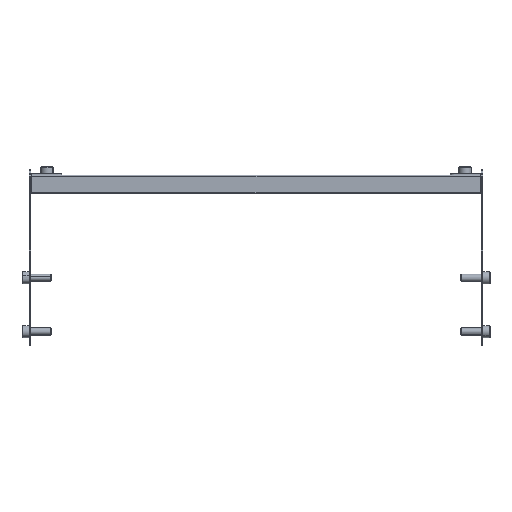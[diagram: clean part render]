
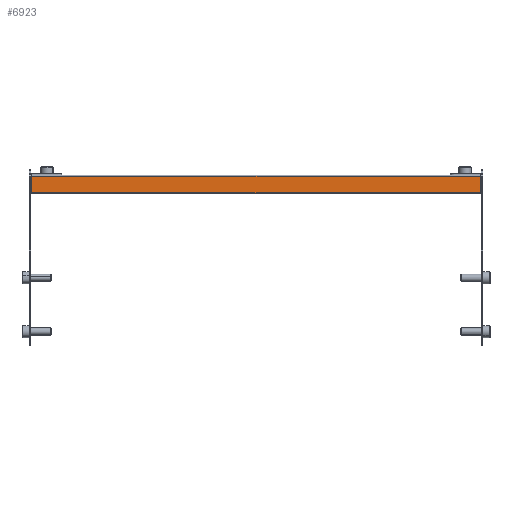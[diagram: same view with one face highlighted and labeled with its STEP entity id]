
A CAD part, front view. The second image highlights one B-rep face of the part: STEP entity #6923.
In plain terms, the highlighted planar face has unit normal (0, -1, 0) as drawn and (1, 0, 0) by its records, which use the part's own axes.
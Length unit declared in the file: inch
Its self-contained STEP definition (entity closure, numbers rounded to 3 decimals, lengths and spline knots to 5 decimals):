
#5304=DIRECTION('',(0.,-1.,0.));
#5305=VECTOR('',#5304,0.53055);
#5306=CARTESIAN_POINT('',(0.78127,0.26528,-7.30175));
#5307=LINE('',#5306,#5305);
#5926=DIRECTION('',(0.,0.,-1.));
#5927=VECTOR('',#5926,14.6035);
#5928=CARTESIAN_POINT('',(0.78127,0.26528,7.30175));
#5929=LINE('',#5928,#5927);
#5930=DIRECTION('',(0.,-1.,0.));
#5931=VECTOR('',#5930,0.53055);
#5932=CARTESIAN_POINT('',(0.78127,0.26528,7.30175));
#5933=LINE('',#5932,#5931);
#5934=DIRECTION('',(0.,0.,1.));
#5935=VECTOR('',#5934,14.6035);
#5936=CARTESIAN_POINT('',(0.78127,-0.26528,-7.30175));
#5937=LINE('',#5936,#5935);
#6305=CARTESIAN_POINT('',(0.78127,0.26528,-7.30175));
#6307=VERTEX_POINT('',#6305);
#6354=CARTESIAN_POINT('',(0.78127,0.26528,7.30175));
#6355=VERTEX_POINT('',#6354);
#6424=CARTESIAN_POINT('',(0.78127,-0.26528,-7.30175));
#6425=VERTEX_POINT('',#6424);
#6488=CARTESIAN_POINT('',(0.78127,-0.26528,7.30175));
#6489=VERTEX_POINT('',#6488);
#6911=CARTESIAN_POINT('',(0.78127,0.29528,7.30175));
#6912=DIRECTION('',(-1.,0.,0.));
#6913=DIRECTION('',(0.,0.,1.));
#6914=AXIS2_PLACEMENT_3D('',#6911,#6912,#6913);
#6915=PLANE('',#6914);
#6916=ORIENTED_EDGE('',*,*,#6711,.F.);
#6917=ORIENTED_EDGE('',*,*,#6906,.T.);
#6918=ORIENTED_EDGE('',*,*,#6561,.T.);
#6920=ORIENTED_EDGE('',*,*,#6919,.T.);
#6921=EDGE_LOOP('',(#6916,#6917,#6918,#6920));
#6922=FACE_OUTER_BOUND('',#6921,.F.);
#6561=EDGE_CURVE('',#6307,#6425,#5307,.T.);
#6711=EDGE_CURVE('',#6355,#6489,#5933,.T.);
#6906=EDGE_CURVE('',#6355,#6307,#5929,.T.);
#6919=EDGE_CURVE('',#6425,#6489,#5937,.T.);
#6923=ADVANCED_FACE('',(#6922),#6915,.F.);
